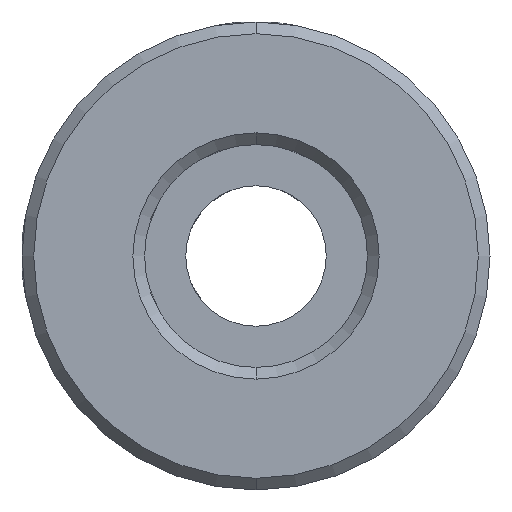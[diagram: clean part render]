
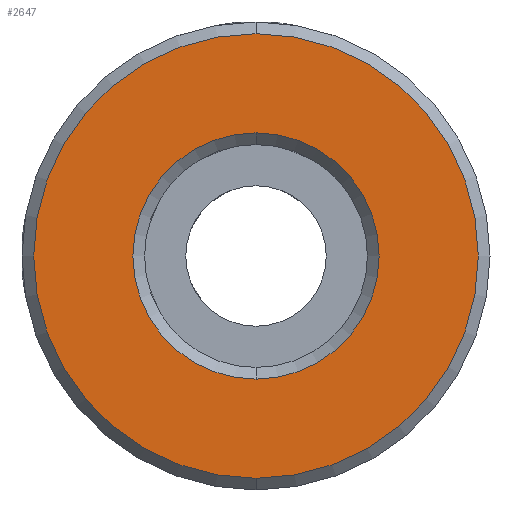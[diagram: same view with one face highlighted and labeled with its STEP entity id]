
A CAD part, front view. The second image highlights one B-rep face of the part: STEP entity #2647.
In plain terms, the highlighted planar face has unit normal (0, -1, 0).
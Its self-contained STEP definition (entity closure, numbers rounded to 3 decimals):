
#62 = EDGE_CURVE ( 'NONE', #1495, #1724, #276, .T. ) ;
#129 = VERTEX_POINT ( 'NONE', #3396 ) ;
#183 = AXIS2_PLACEMENT_3D ( 'NONE', #274, #1922, #1643 ) ;
#237 = DIRECTION ( 'NONE',  ( 0., 0., 1. ) ) ;
#274 = CARTESIAN_POINT ( 'NONE',  ( -10.188, -0.277, 0.046 ) ) ;
#276 = CIRCLE ( 'NONE', #2340, 9.5 ) ;
#307 = EDGE_LOOP ( 'NONE', ( #2718, #858 ) ) ;
#484 = PLANE ( 'NONE',  #2663 ) ;
#520 = DIRECTION ( 'NONE',  ( 0., 0., 1. ) ) ;
#630 = CARTESIAN_POINT ( 'NONE',  ( -10.188, -0.277, 5.308 ) ) ;
#715 = CIRCLE ( 'NONE', #1263, 9.5 ) ;
#838 = DIRECTION ( 'NONE',  ( 0., 1., 0. ) ) ;
#858 = ORIENTED_EDGE ( 'NONE', *, *, #2536, .T. ) ;
#1008 = ORIENTED_EDGE ( 'NONE', *, *, #2728, .T. ) ;
#1129 = DIRECTION ( 'NONE',  ( 0., -1., 0. ) ) ;
#1202 = CIRCLE ( 'NONE', #1675, 5.263 ) ;
#1263 = AXIS2_PLACEMENT_3D ( 'NONE', #1714, #1129, #1929 ) ;
#1387 = DIRECTION ( 'NONE',  ( 0., 0., 1. ) ) ;
#1484 = ORIENTED_EDGE ( 'NONE', *, *, #2906, .T. ) ;
#1495 = VERTEX_POINT ( 'NONE', #2575 ) ;
#1574 = VERTEX_POINT ( 'NONE', #630 ) ;
#1643 = DIRECTION ( 'NONE',  ( 0., 0., 1. ) ) ;
#1651 = DIRECTION ( 'NONE',  ( 0., 1., 0. ) ) ;
#1675 = AXIS2_PLACEMENT_3D ( 'NONE', #3304, #1651, #237 ) ;
#1680 = DIRECTION ( 'NONE',  ( 0., -1., 0. ) ) ;
#1714 = CARTESIAN_POINT ( 'NONE',  ( -10.188, -0.277, 0.046 ) ) ;
#1724 = VERTEX_POINT ( 'NONE', #2411 ) ;
#1922 = DIRECTION ( 'NONE',  ( 0., 1., 0. ) ) ;
#1929 = DIRECTION ( 'NONE',  ( 0., 0., 1. ) ) ;
#1978 = FACE_OUTER_BOUND ( 'NONE', #307, .T. ) ;
#2242 = CARTESIAN_POINT ( 'NONE',  ( -10.188, -0.277, 0.046 ) ) ;
#2340 = AXIS2_PLACEMENT_3D ( 'NONE', #3317, #1680, #520 ) ;
#2411 = CARTESIAN_POINT ( 'NONE',  ( -10.188, -0.277, -9.454 ) ) ;
#2536 = EDGE_CURVE ( 'NONE', #1724, #1495, #715, .T. ) ;
#2575 = CARTESIAN_POINT ( 'NONE',  ( -10.188, -0.277, 9.546 ) ) ;
#2647 = ADVANCED_FACE ( 'NONE', ( #1978, #3316 ), #484, .F. ) ;
#2663 = AXIS2_PLACEMENT_3D ( 'NONE', #2242, #838, #1387 ) ;
#2718 = ORIENTED_EDGE ( 'NONE', *, *, #62, .T. ) ;
#2728 = EDGE_CURVE ( 'NONE', #129, #1574, #2772, .T. ) ;
#2772 = CIRCLE ( 'NONE', #183, 5.263 ) ;
#2906 = EDGE_CURVE ( 'NONE', #1574, #129, #1202, .T. ) ;
#3304 = CARTESIAN_POINT ( 'NONE',  ( -10.188, -0.277, 0.046 ) ) ;
#3316 = FACE_BOUND ( 'NONE', #3398, .T. ) ;
#3317 = CARTESIAN_POINT ( 'NONE',  ( -10.188, -0.277, 0.046 ) ) ;
#3396 = CARTESIAN_POINT ( 'NONE',  ( -10.188, -0.277, -5.217 ) ) ;
#3398 = EDGE_LOOP ( 'NONE', ( #1008, #1484 ) ) ;
